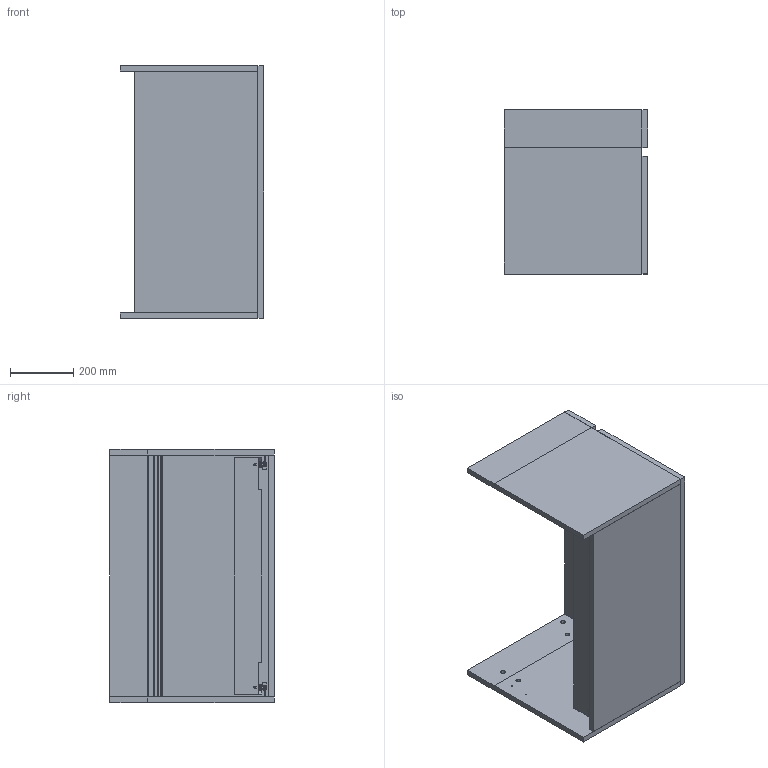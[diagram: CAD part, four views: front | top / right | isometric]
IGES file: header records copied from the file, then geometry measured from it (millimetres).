
Global section: file name: 3D Dosyası,; native system: Autodesk Inventor 2024; preprocessor: unknown; author: pc19; date: 20240624.155615; units: millimetre
Bounding box: 453 x 520 x 800 mm (x, y, z)
Volume: 24793426.1 mm3; surface area: 3842583.7 mm2
Topology: 19 solids, 19 shells, 596 faces, 1670 edges, 1162 vertices
Faces by surface type: bspline 596
